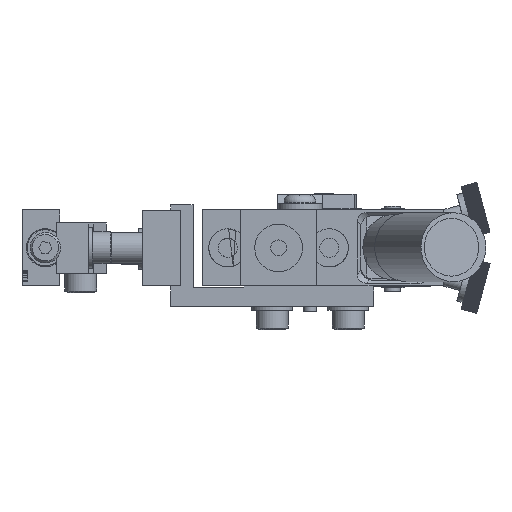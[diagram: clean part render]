
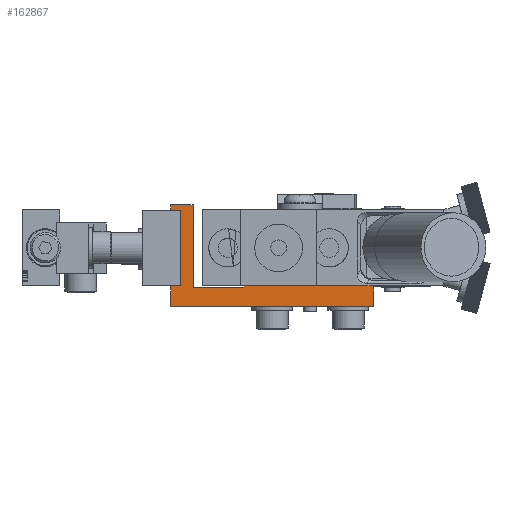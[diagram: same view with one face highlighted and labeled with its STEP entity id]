
A CAD part, left-side view. The second image highlights one B-rep face of the part: STEP entity #162867.
In plain terms, the highlighted planar face has unit normal (-1, 0, 0).
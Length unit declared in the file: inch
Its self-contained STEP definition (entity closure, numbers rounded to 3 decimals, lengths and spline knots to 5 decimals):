
#6702=CARTESIAN_POINT('',(-0.4995,1.8755,0.));
#6703=VERTEX_POINT('',#6702);
#6769=CARTESIAN_POINT('',(-0.4995,1.8755,0.745));
#6770=VERTEX_POINT('',#6769);
#7461=CARTESIAN_POINT('',(-0.4995,1.8755,0.));
#7462=DIRECTION('',(0.0,0.0,1.0));
#7463=VECTOR('',#7462,0.745);
#7464=LINE('',#7461,#7463);
#7465=EDGE_CURVE('',#6703,#6770,#7464,.T.);
#162417=CARTESIAN_POINT('',(-0.4995,1.1555,0.));
#162418=VERTEX_POINT('',#162417);
#162425=CARTESIAN_POINT('',(-0.4995,-0.1245,0.));
#162426=VERTEX_POINT('',#162425);
#162427=CARTESIAN_POINT('',(-0.4995,1.1555,0.));
#162428=DIRECTION('',(0.0,-1.0,0.0));
#162429=VECTOR('',#162428,1.28);
#162430=LINE('',#162427,#162429);
#162431=EDGE_CURVE('',#162418,#162426,#162430,.T.);
#162798=CARTESIAN_POINT('',(-0.4995,0.76361,-0.10189));
#162799=DIRECTION('',(1.0,0.0,0.0));
#162800=DIRECTION('',(0.0,-1.0,0.0));
#162801=AXIS2_PLACEMENT_3D('',#162798,#162799,#162800);
#162802=PLANE('',#162801);
#162803=CARTESIAN_POINT('',(-0.4995,1.8755,-0.2));
#162804=VERTEX_POINT('',#162803);
#162805=CARTESIAN_POINT('',(-0.4995,-0.1245,-0.2));
#162806=VERTEX_POINT('',#162805);
#162807=CARTESIAN_POINT('',(-0.4995,1.8755,-0.2));
#162808=DIRECTION('',(0.0,-1.0,0.0));
#162809=VECTOR('',#162808,2.);
#162810=LINE('',#162807,#162809);
#162811=EDGE_CURVE('',#162804,#162806,#162810,.T.);
#162812=ORIENTED_EDGE('',*,*,#162811,.T.);
#162813=CARTESIAN_POINT('',(-0.4995,-0.1245,-0.2));
#162814=DIRECTION('',(0.0,0.0,1.0));
#162815=VECTOR('',#162814,0.2);
#162816=LINE('',#162813,#162815);
#162817=EDGE_CURVE('',#162806,#162426,#162816,.T.);
#162818=ORIENTED_EDGE('',*,*,#162817,.T.);
#162819=ORIENTED_EDGE('',*,*,#162431,.F.);
#162820=CARTESIAN_POINT('',(-0.4995,1.1555,-0.015));
#162821=VERTEX_POINT('',#162820);
#162822=CARTESIAN_POINT('',(-0.4995,1.1555,0.));
#162823=DIRECTION('',(0.0,0.0,-1.0));
#162824=VECTOR('',#162823,0.015);
#162825=LINE('',#162822,#162824);
#162826=EDGE_CURVE('',#162418,#162821,#162825,.T.);
#162827=ORIENTED_EDGE('',*,*,#162826,.T.);
#162828=CARTESIAN_POINT('',(-0.4995,1.6555,-0.015));
#162829=VERTEX_POINT('',#162828);
#162830=CARTESIAN_POINT('',(-0.4995,1.1555,-0.015));
#162831=DIRECTION('',(0.0,1.0,0.0));
#162832=VECTOR('',#162831,0.5);
#162833=LINE('',#162830,#162832);
#162834=EDGE_CURVE('',#162821,#162829,#162833,.T.);
#162835=ORIENTED_EDGE('',*,*,#162834,.T.);
#162836=CARTESIAN_POINT('',(-0.4995,1.6555,0.8));
#162837=VERTEX_POINT('',#162836);
#162838=CARTESIAN_POINT('',(-0.4995,1.6555,-0.015));
#162839=DIRECTION('',(0.0,0.0,1.0));
#162840=VECTOR('',#162839,0.815);
#162841=LINE('',#162838,#162840);
#162842=EDGE_CURVE('',#162829,#162837,#162841,.T.);
#162843=ORIENTED_EDGE('',*,*,#162842,.T.);
#162844=CARTESIAN_POINT('',(-0.4995,1.8755,0.8));
#162845=VERTEX_POINT('',#162844);
#162846=CARTESIAN_POINT('',(-0.4995,1.6555,0.8));
#162847=DIRECTION('',(0.0,1.0,0.0));
#162848=VECTOR('',#162847,0.22);
#162849=LINE('',#162846,#162848);
#162850=EDGE_CURVE('',#162837,#162845,#162849,.T.);
#162851=ORIENTED_EDGE('',*,*,#162850,.T.);
#162852=CARTESIAN_POINT('',(-0.4995,1.8755,0.8));
#162853=DIRECTION('',(0.0,0.0,-1.0));
#162854=VECTOR('',#162853,0.055);
#162855=LINE('',#162852,#162854);
#162856=EDGE_CURVE('',#162845,#6770,#162855,.T.);
#162857=ORIENTED_EDGE('',*,*,#162856,.T.);
#162858=ORIENTED_EDGE('',*,*,#7465,.F.);
#162859=CARTESIAN_POINT('',(-0.4995,1.8755,0.));
#162860=DIRECTION('',(0.0,0.0,-1.0));
#162861=VECTOR('',#162860,0.2);
#162862=LINE('',#162859,#162861);
#162863=EDGE_CURVE('',#6703,#162804,#162862,.T.);
#162864=ORIENTED_EDGE('',*,*,#162863,.T.);
#162865=EDGE_LOOP('',(#162812,#162818,#162819,#162827,#162835,#162843,#162851,#162857,#162858,#162864));
#162866=FACE_OUTER_BOUND('',#162865,.T.);
#162867=ADVANCED_FACE('',(#162866),#162802,.F.);
